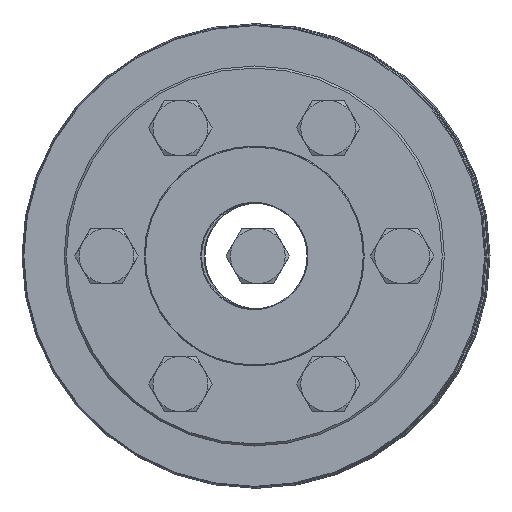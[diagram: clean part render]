
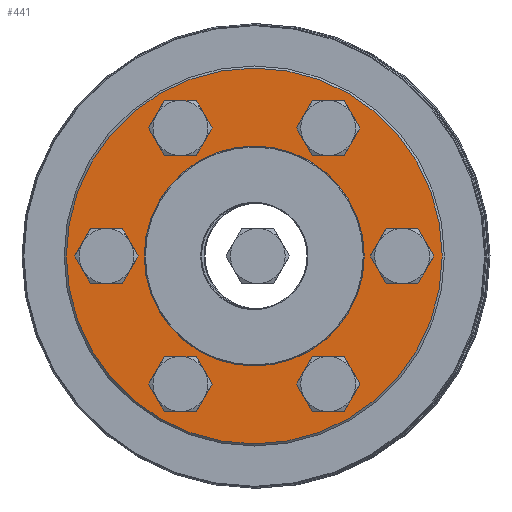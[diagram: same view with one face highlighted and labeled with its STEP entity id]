
A CAD part, left-side view. The second image highlights one B-rep face of the part: STEP entity #441.
In plain terms, the highlighted planar face has unit normal (-1, 0, 0).
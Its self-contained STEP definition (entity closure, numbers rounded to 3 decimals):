
#441 = ADVANCED_FACE( 'NONE', ( #826, #827, #828, #829, #830, #831, #832, #833 ), #834, .F. );
#826 = FACE_OUTER_BOUND( '', #1146, .T. );
#827 = FACE_BOUND( '', #1147, .T. );
#828 = FACE_BOUND( '', #1148, .T. );
#829 = FACE_BOUND( '', #1149, .T. );
#830 = FACE_BOUND( '', #1150, .T. );
#831 = FACE_BOUND( '', #1151, .T. );
#832 = FACE_BOUND( '', #1152, .T. );
#833 = FACE_BOUND( '', #1153, .T. );
#834 = PLANE( '', #1154 );
#1146 = EDGE_LOOP( '', ( #1637 ) );
#1147 = EDGE_LOOP( '', ( #1638 ) );
#1148 = EDGE_LOOP( '', ( #1639 ) );
#1149 = EDGE_LOOP( '', ( #1640 ) );
#1150 = EDGE_LOOP( '', ( #1641 ) );
#1151 = EDGE_LOOP( '', ( #1642 ) );
#1152 = EDGE_LOOP( '', ( #1643 ) );
#1153 = EDGE_LOOP( '', ( #1644 ) );
#1154 = AXIS2_PLACEMENT_3D( '', #1645, #1646, #1647 );
#1637 = ORIENTED_EDGE( '', *, *, #1884, .T. );
#1638 = ORIENTED_EDGE( '', *, *, #1886, .T. );
#1639 = ORIENTED_EDGE( '', *, *, #1885, .T. );
#1640 = ORIENTED_EDGE( '', *, *, #1887, .T. );
#1641 = ORIENTED_EDGE( '', *, *, #1888, .T. );
#1642 = ORIENTED_EDGE( '', *, *, #1889, .T. );
#1643 = ORIENTED_EDGE( '', *, *, #1874, .T. );
#1644 = ORIENTED_EDGE( '', *, *, #1876, .F. );
#1645 = CARTESIAN_POINT( '', ( 0., 26., 0. ) );
#1646 = DIRECTION( '', ( 1., 0., 0. ) );
#1647 = DIRECTION( '', ( 0., 1., 0. ) );
#1874 = EDGE_CURVE( 'NONE', #2084, #2084, #2085, .T. );
#1876 = EDGE_CURVE( 'NONE', #2088, #2088, #2089, .T. );
#1884 = EDGE_CURVE( 'NONE', #2104, #2104, #2105, .T. );
#1885 = EDGE_CURVE( 'NONE', #2106, #2106, #2107, .T. );
#1886 = EDGE_CURVE( 'NONE', #2108, #2108, #2109, .T. );
#1887 = EDGE_CURVE( 'NONE', #2110, #2110, #2111, .T. );
#1888 = EDGE_CURVE( 'NONE', #2112, #2112, #2113, .T. );
#1889 = EDGE_CURVE( 'NONE', #2114, #2114, #2115, .T. );
#2084 = VERTEX_POINT( '', #2272 );
#2085 = CIRCLE( '', #2273, 4.5 );
#2088 = VERTEX_POINT( '', #2276 );
#2089 = CIRCLE( '', #2277, 26. );
#2104 = VERTEX_POINT( '', #2292 );
#2105 = CIRCLE( '', #2293, 44.5 );
#2106 = VERTEX_POINT( '', #2294 );
#2107 = CIRCLE( '', #2295, 4.5 );
#2108 = VERTEX_POINT( '', #2296 );
#2109 = CIRCLE( '', #2297, 4.5 );
#2110 = VERTEX_POINT( '', #2298 );
#2111 = CIRCLE( '', #2299, 4.5 );
#2112 = VERTEX_POINT( '', #2300 );
#2113 = CIRCLE( '', #2301, 4.5 );
#2114 = VERTEX_POINT( '', #2302 );
#2115 = CIRCLE( '', #2303, 4.5 );
#2272 = CARTESIAN_POINT( '', ( 0., 35., -4.5 ) );
#2273 = AXIS2_PLACEMENT_3D( '', #2537, #2538, #2539 );
#2276 = CARTESIAN_POINT( '', ( 0., 0., 26. ) );
#2277 = AXIS2_PLACEMENT_3D( '', #2543, #2544, #2545 );
#2292 = CARTESIAN_POINT( '', ( 0., 0., -44.5 ) );
#2293 = AXIS2_PLACEMENT_3D( '', #2567, #2568, #2569 );
#2294 = CARTESIAN_POINT( '', ( 0., -17.5, 25.811 ) );
#2295 = AXIS2_PLACEMENT_3D( '', #2570, #2571, #2572 );
#2296 = CARTESIAN_POINT( '', ( 0., 17.5, 25.811 ) );
#2297 = AXIS2_PLACEMENT_3D( '', #2573, #2574, #2575 );
#2298 = CARTESIAN_POINT( '', ( 0., -35., -4.5 ) );
#2299 = AXIS2_PLACEMENT_3D( '', #2576, #2577, #2578 );
#2300 = CARTESIAN_POINT( '', ( 0., -17.5, -34.811 ) );
#2301 = AXIS2_PLACEMENT_3D( '', #2579, #2580, #2581 );
#2302 = CARTESIAN_POINT( '', ( 0., 17.5, -34.811 ) );
#2303 = AXIS2_PLACEMENT_3D( '', #2582, #2583, #2584 );
#2537 = CARTESIAN_POINT( '', ( 0., 35., 0. ) );
#2538 = DIRECTION( '', ( 1., 0., 0. ) );
#2539 = DIRECTION( '', ( 0., 0., -1. ) );
#2543 = CARTESIAN_POINT( '', ( 0., 0., 0. ) );
#2544 = DIRECTION( '', ( -1., 0., 0. ) );
#2545 = DIRECTION( '', ( 0., 0., 1. ) );
#2567 = CARTESIAN_POINT( '', ( 0., 0., 0. ) );
#2568 = DIRECTION( '', ( -1., 0., 0. ) );
#2569 = DIRECTION( '', ( 0., 0., -1. ) );
#2570 = CARTESIAN_POINT( '', ( 0., -17.5, 30.311 ) );
#2571 = DIRECTION( '', ( 1., 0., 0. ) );
#2572 = DIRECTION( '', ( 0., 0., -1. ) );
#2573 = CARTESIAN_POINT( '', ( 0., 17.5, 30.311 ) );
#2574 = DIRECTION( '', ( 1., 0., 0. ) );
#2575 = DIRECTION( '', ( 0., 0., -1. ) );
#2576 = CARTESIAN_POINT( '', ( 0., -35., 0. ) );
#2577 = DIRECTION( '', ( 1., 0., 0. ) );
#2578 = DIRECTION( '', ( 0., 0., -1. ) );
#2579 = CARTESIAN_POINT( '', ( 0., -17.5, -30.311 ) );
#2580 = DIRECTION( '', ( 1., 0., 0. ) );
#2581 = DIRECTION( '', ( 0., 0., -1. ) );
#2582 = CARTESIAN_POINT( '', ( 0., 17.5, -30.311 ) );
#2583 = DIRECTION( '', ( 1., 0., 0. ) );
#2584 = DIRECTION( '', ( 0., 0., -1. ) );
